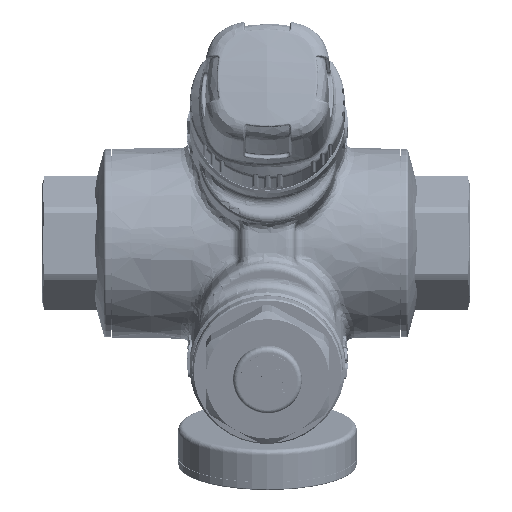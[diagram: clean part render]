
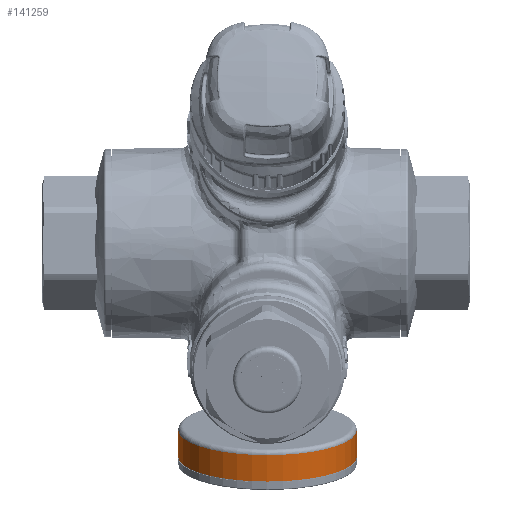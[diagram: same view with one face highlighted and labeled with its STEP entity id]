
A CAD part, top view. The second image highlights one B-rep face of the part: STEP entity #141259.
In plain terms, the highlighted cylindrical face has radius 19.5 mm (diameter 39 mm), a partial arc.
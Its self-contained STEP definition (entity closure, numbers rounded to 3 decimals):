
#101387 = TOROIDAL_SURFACE('',#101388,18.5,1.);
#101388 = AXIS2_PLACEMENT_3D('',#101389,#101390,#101391);
#101389 = CARTESIAN_POINT('',(-0.045,36.849,
    29.614));
#101390 = DIRECTION('',(0.,-0.959,
    -0.282));
#101391 = DIRECTION('',(-1.,0.002,
    -0.006));
#141104 = PLANE('',#141105);
#141105 = AXIS2_PLACEMENT_3D('',#141106,#141107,#141108);
#141106 = CARTESIAN_POINT('',(-0.045,31.093,
    27.92));
#141107 = DIRECTION('',(0.,-0.959,
    -0.282));
#141108 = DIRECTION('',(-1.,0.,0.));
#141195 = VERTEX_POINT('',#141196);
#141196 = CARTESIAN_POINT('',(19.455,31.093,
    27.92));
#141197 = VERTEX_POINT('',#141198);
#141198 = CARTESIAN_POINT('',(-19.545,31.093,
    27.92));
#141217 = CYLINDRICAL_SURFACE('',#141218,19.5);
#141218 = AXIS2_PLACEMENT_3D('',#141219,#141220,#141221);
#141219 = CARTESIAN_POINT('',(-0.045,48.313,
    32.988));
#141220 = DIRECTION('',(0.,-0.959,
    -0.282));
#141221 = DIRECTION('',(-1.,0.,0.));
#141229 = EDGE_CURVE('',#141195,#141197,#141230,.T.);
#141230 = SURFACE_CURVE('',#141231,(#141236,#141243),.PCURVE_S1.);
#141231 = CIRCLE('',#141232,19.5);
#141232 = AXIS2_PLACEMENT_3D('',#141233,#141234,#141235);
#141233 = CARTESIAN_POINT('',(-0.045,31.093,
    27.92));
#141234 = DIRECTION('',(0.,-0.959,
    -0.282));
#141235 = DIRECTION('',(1.,0.,0.));
#141236 = PCURVE('',#141104,#141237);
#141237 = DEFINITIONAL_REPRESENTATION('',(#141238),#141242);
#141238 = CIRCLE('',#141239,19.5);
#141239 = AXIS2_PLACEMENT_2D('',#141240,#141241);
#141240 = CARTESIAN_POINT('',(0.,0.));
#141241 = DIRECTION('',(-1.,0.));
#141242 = ( GEOMETRIC_REPRESENTATION_CONTEXT(2) 
PARAMETRIC_REPRESENTATION_CONTEXT() REPRESENTATION_CONTEXT('2D SPACE',''
  ) );
#141243 = PCURVE('',#141244,#141249);
#141244 = CYLINDRICAL_SURFACE('',#141245,19.5);
#141245 = AXIS2_PLACEMENT_3D('',#141246,#141247,#141248);
#141246 = CARTESIAN_POINT('',(-0.045,48.313,
    32.988));
#141247 = DIRECTION('',(0.,-0.959,
    -0.282));
#141248 = DIRECTION('',(-1.,0.,0.));
#141249 = DEFINITIONAL_REPRESENTATION('',(#141250),#141254);
#141250 = LINE('',#141251,#141252);
#141251 = CARTESIAN_POINT('',(3.142,17.95));
#141252 = VECTOR('',#141253,1.);
#141253 = DIRECTION('',(1.,0.));
#141254 = ( GEOMETRIC_REPRESENTATION_CONTEXT(2) 
PARAMETRIC_REPRESENTATION_CONTEXT() REPRESENTATION_CONTEXT('2D SPACE',''
  ) );
#141259 = ADVANCED_FACE('',(#141260),#141244,.T.);
#141260 = FACE_BOUND('',#141261,.T.);
#141261 = EDGE_LOOP('',(#141262,#141285,#141286,#141309));
#141262 = ORIENTED_EDGE('',*,*,#141263,.F.);
#141263 = EDGE_CURVE('',#141197,#141264,#141266,.T.);
#141264 = VERTEX_POINT('',#141265);
#141265 = CARTESIAN_POINT('',(-19.545,36.849,
    29.614));
#141266 = SURFACE_CURVE('',#141267,(#141271,#141278),.PCURVE_S1.);
#141267 = LINE('',#141268,#141269);
#141268 = CARTESIAN_POINT('',(-19.545,31.093,
    27.92));
#141269 = VECTOR('',#141270,1.);
#141270 = DIRECTION('',(0.,0.959,0.282));
#141271 = PCURVE('',#141244,#141272);
#141272 = DEFINITIONAL_REPRESENTATION('',(#141273),#141277);
#141273 = LINE('',#141274,#141275);
#141274 = CARTESIAN_POINT('',(6.283,17.95));
#141275 = VECTOR('',#141276,1.);
#141276 = DIRECTION('',(0.,-1.));
#141277 = ( GEOMETRIC_REPRESENTATION_CONTEXT(2) 
PARAMETRIC_REPRESENTATION_CONTEXT() REPRESENTATION_CONTEXT('2D SPACE',''
  ) );
#141278 = PCURVE('',#141217,#141279);
#141279 = DEFINITIONAL_REPRESENTATION('',(#141280),#141284);
#141280 = LINE('',#141281,#141282);
#141281 = CARTESIAN_POINT('',(0.,17.95));
#141282 = VECTOR('',#141283,1.);
#141283 = DIRECTION('',(0.,-1.));
#141284 = ( GEOMETRIC_REPRESENTATION_CONTEXT(2) 
PARAMETRIC_REPRESENTATION_CONTEXT() REPRESENTATION_CONTEXT('2D SPACE',''
  ) );
#141285 = ORIENTED_EDGE('',*,*,#141229,.F.);
#141286 = ORIENTED_EDGE('',*,*,#141287,.T.);
#141287 = EDGE_CURVE('',#141195,#141288,#141290,.T.);
#141288 = VERTEX_POINT('',#141289);
#141289 = CARTESIAN_POINT('',(19.455,36.849,
    29.614));
#141290 = SURFACE_CURVE('',#141291,(#141295,#141302),.PCURVE_S1.);
#141291 = LINE('',#141292,#141293);
#141292 = CARTESIAN_POINT('',(19.455,31.093,
    27.92));
#141293 = VECTOR('',#141294,1.);
#141294 = DIRECTION('',(0.,0.959,0.282));
#141295 = PCURVE('',#141244,#141296);
#141296 = DEFINITIONAL_REPRESENTATION('',(#141297),#141301);
#141297 = LINE('',#141298,#141299);
#141298 = CARTESIAN_POINT('',(3.142,17.95));
#141299 = VECTOR('',#141300,1.);
#141300 = DIRECTION('',(0.,-1.));
#141301 = ( GEOMETRIC_REPRESENTATION_CONTEXT(2) 
PARAMETRIC_REPRESENTATION_CONTEXT() REPRESENTATION_CONTEXT('2D SPACE',''
  ) );
#141302 = PCURVE('',#141217,#141303);
#141303 = DEFINITIONAL_REPRESENTATION('',(#141304),#141308);
#141304 = LINE('',#141305,#141306);
#141305 = CARTESIAN_POINT('',(3.142,17.95));
#141306 = VECTOR('',#141307,1.);
#141307 = DIRECTION('',(0.,-1.));
#141308 = ( GEOMETRIC_REPRESENTATION_CONTEXT(2) 
PARAMETRIC_REPRESENTATION_CONTEXT() REPRESENTATION_CONTEXT('2D SPACE',''
  ) );
#141309 = ORIENTED_EDGE('',*,*,#141310,.F.);
#141310 = EDGE_CURVE('',#141264,#141288,#141311,.T.);
#141311 = SURFACE_CURVE('',#141312,(#141317,#141324),.PCURVE_S1.);
#141312 = CIRCLE('',#141313,19.5);
#141313 = AXIS2_PLACEMENT_3D('',#141314,#141315,#141316);
#141314 = CARTESIAN_POINT('',(-0.045,36.849,
    29.614));
#141315 = DIRECTION('',(0.,0.959,0.282)
  );
#141316 = DIRECTION('',(-1.,0.,0.));
#141317 = PCURVE('',#141244,#141318);
#141318 = DEFINITIONAL_REPRESENTATION('',(#141319),#141323);
#141319 = LINE('',#141320,#141321);
#141320 = CARTESIAN_POINT('',(6.283,11.95));
#141321 = VECTOR('',#141322,1.);
#141322 = DIRECTION('',(-1.,0.));
#141323 = ( GEOMETRIC_REPRESENTATION_CONTEXT(2) 
PARAMETRIC_REPRESENTATION_CONTEXT() REPRESENTATION_CONTEXT('2D SPACE',''
  ) );
#141324 = PCURVE('',#101387,#141325);
#141325 = DEFINITIONAL_REPRESENTATION('',(#141326),#141352);
#141326 = B_SPLINE_CURVE_WITH_KNOTS('',3,(#141327,#141328,#141329,
    #141330,#141331,#141332,#141333,#141334,#141335,#141336,#141337,
    #141338,#141339,#141340,#141341,#141342,#141343,#141344,#141345,
    #141346,#141347,#141348,#141349,#141350,#141351),.UNSPECIFIED.,.F.,
  .F.,(4,1,1,1,1,1,1,1,1,1,1,1,1,1,1,1,1,1,1,1,1,1,4),(0.,0.143
    ,0.286,0.428,0.571,0.714,
    0.857,1.,1.142,1.285,
    1.428,1.571,1.714,1.856,
    1.999,2.142,2.285,2.428,
    2.57,2.713,2.856,2.999,
    3.142),.QUASI_UNIFORM_KNOTS.);
#141327 = CARTESIAN_POINT('',(6.277,6.283));
#141328 = CARTESIAN_POINT('',(6.229,6.283));
#141329 = CARTESIAN_POINT('',(6.134,6.283));
#141330 = CARTESIAN_POINT('',(5.991,6.283));
#141331 = CARTESIAN_POINT('',(5.848,6.283));
#141332 = CARTESIAN_POINT('',(5.705,6.283));
#141333 = CARTESIAN_POINT('',(5.563,6.283));
#141334 = CARTESIAN_POINT('',(5.42,6.283));
#141335 = CARTESIAN_POINT('',(5.277,6.283));
#141336 = CARTESIAN_POINT('',(5.134,6.283));
#141337 = CARTESIAN_POINT('',(4.991,6.283));
#141338 = CARTESIAN_POINT('',(4.849,6.283));
#141339 = CARTESIAN_POINT('',(4.706,6.283));
#141340 = CARTESIAN_POINT('',(4.563,6.283));
#141341 = CARTESIAN_POINT('',(4.42,6.283));
#141342 = CARTESIAN_POINT('',(4.277,6.283));
#141343 = CARTESIAN_POINT('',(4.135,6.283));
#141344 = CARTESIAN_POINT('',(3.992,6.283));
#141345 = CARTESIAN_POINT('',(3.849,6.283));
#141346 = CARTESIAN_POINT('',(3.706,6.283));
#141347 = CARTESIAN_POINT('',(3.563,6.283));
#141348 = CARTESIAN_POINT('',(3.421,6.283));
#141349 = CARTESIAN_POINT('',(3.278,6.283));
#141350 = CARTESIAN_POINT('',(3.183,6.283));
#141351 = CARTESIAN_POINT('',(3.135,6.283));
#141352 = ( GEOMETRIC_REPRESENTATION_CONTEXT(2) 
PARAMETRIC_REPRESENTATION_CONTEXT() REPRESENTATION_CONTEXT('2D SPACE',''
  ) );
